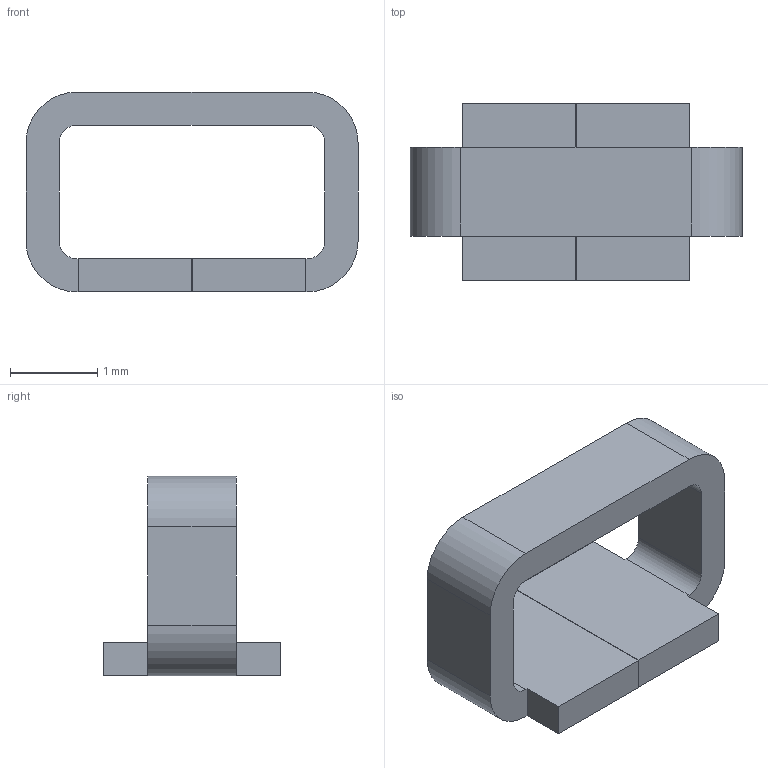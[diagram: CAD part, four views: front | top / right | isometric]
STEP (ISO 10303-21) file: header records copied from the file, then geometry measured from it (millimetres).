
FILE_DESCRIPTION (( 'STEP AP214' ), '1' );
FILE_NAME ('Test_Point_Keystone_5019_SM.STEP', '2017-03-06T08:47:10', ( 'pomocnik' ), ( '' ), 'SwSTEP 2.0', 'SolidWorks 2016', '' );
FILE_SCHEMA (( 'AUTOMOTIVE_DESIGN' ));
Length unit declared in the file: millimetre
Products named in the file (1): Test_Point_Keystone_5019_SM
Bounding box: 3.81 x 2.03 x 2.29 mm (x, y, z)
Volume: 4.9 mm3; surface area: 35.6 mm2
Topology: 1 solids, 1 shells, 30 faces, 84 edges, 56 vertices
Faces by surface type: plane 22, cylinder 8
Entity records: 998 total; most frequent: CARTESIAN_POINT 171, ORIENTED_EDGE 168, DIRECTION 162, EDGE_CURVE 84, VECTOR 68, LINE 68, VERTEX_POINT 56, AXIS2_PLACEMENT_3D 47
